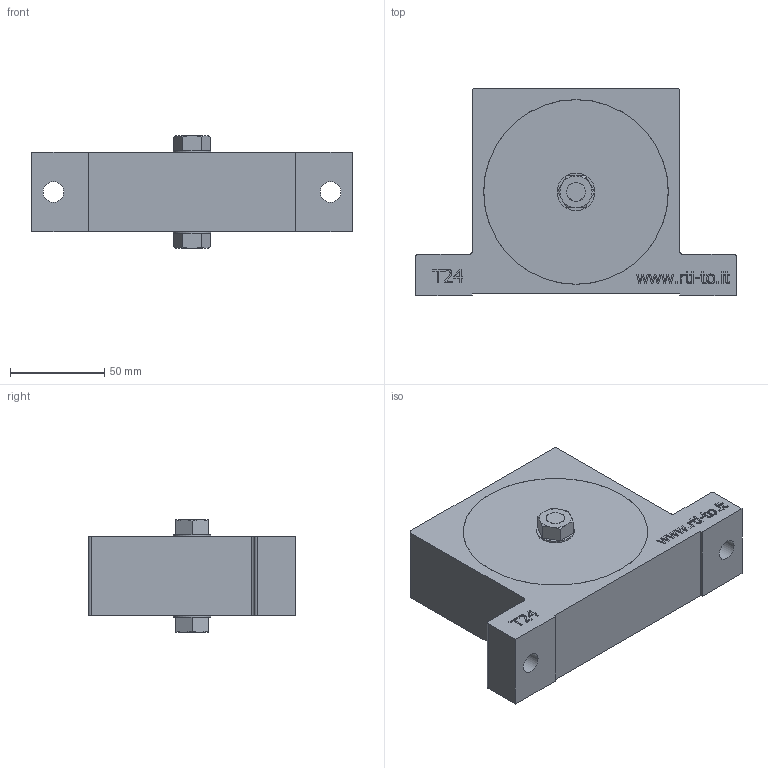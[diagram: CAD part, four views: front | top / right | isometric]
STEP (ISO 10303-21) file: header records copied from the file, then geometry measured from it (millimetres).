
FILE_DESCRIPTION((''),'2;1');
FILE_NAME('D:\UFFICIO TECNICO\PROGETTI PER PROTOTIPI\VIBRATORE - T24\VIBR. T24.stp','2015-09-14T13:08:39',('Piero'),(''),'Autodesk Inventor 2011','Autodesk Inventor 2011','');
FILE_SCHEMA(('CONFIG_CONTROL_DESIGN'));
Length unit declared in the file: millimetre
Products named in the file (1): T24
Bounding box: 170 x 110 x 60 mm (x, y, z)
Volume: 334735.1 mm3; surface area: 82405.1 mm2
Topology: 1 solids, 1 shells, 274 faces, 707 edges, 467 vertices
Faces by surface type: plane 199, bspline 38, cylinder 21, cone 16
Full cylindrical faces by diameter (mm): 3 x1, 10 x3, 11 x2, 14.95 x2, 20 x2, 91.5 x1, 97.9 x2, 98 x2
Entity records: 8406 total; most frequent: CARTESIAN_POINT 2040, ORIENTED_EDGE 1366, DIRECTION 1109, EDGE_CURVE 683, VECTOR 527, LINE 527, VERTEX_POINT 462, EDGE_LOOP 331
